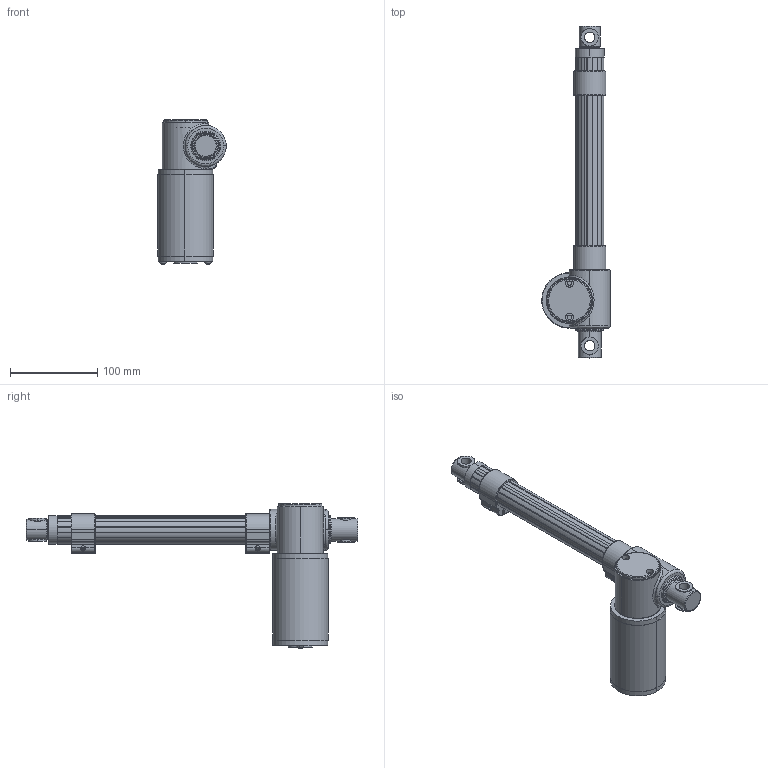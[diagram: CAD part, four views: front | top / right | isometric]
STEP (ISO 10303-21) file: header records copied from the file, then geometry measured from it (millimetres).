
FILE_DESCRIPTION (( 'STEP AP203' ), '1' );
FILE_NAME ('LD40.STEP', '2016-10-26T01:59:58', ( '' ), ( '' ), 'SwSTEP 2.0', 'SolidWorks 2012', '' );
FILE_SCHEMA (( 'CONFIG_CONTROL_DESIGN' ));
Length unit declared in the file: millimetre
Products named in the file (3): LD40; 2; 1
Assembly tree (2 placements, depth 2):
  LD40
    1
    2
Bounding box: 78.37 x 380 x 165.43 mm (x, y, z)
Surface area: 131421.5 mm2 (no closed solid volume)
Topology: 0 solids, 15 shells, 332 faces, 950 edges, 634 vertices
Faces by surface type: cylinder 146, plane 98, bspline 64, cone 24
Entity records: 14861 total; most frequent: CARTESIAN_POINT 6316, DIRECTION 1701, ORIENTED_EDGE 1687, EDGE_CURVE 950, AXIS2_PLACEMENT_3D 670, VERTEX_POINT 634, CIRCLE 397, EDGE_LOOP 363
